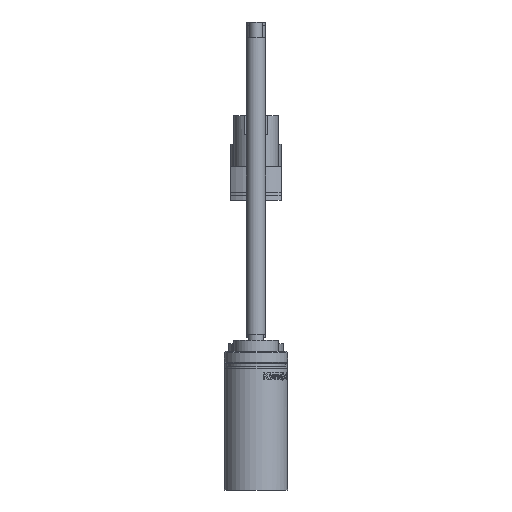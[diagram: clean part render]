
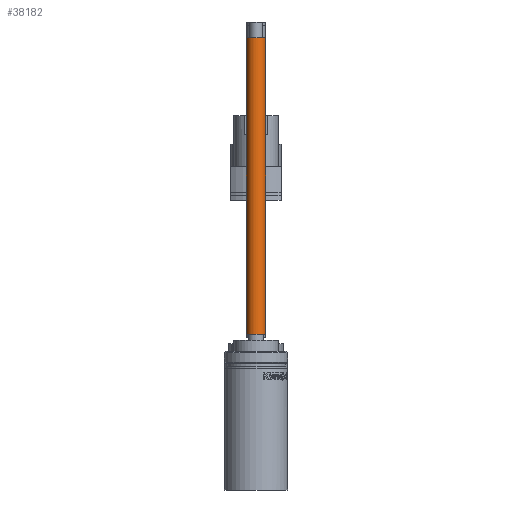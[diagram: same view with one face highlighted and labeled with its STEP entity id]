
A CAD part, left-side view. The second image highlights one B-rep face of the part: STEP entity #38182.
In plain terms, the highlighted cylindrical face has radius 1.5 mm (diameter 3 mm), a full revolution.
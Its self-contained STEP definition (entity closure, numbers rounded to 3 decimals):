
#38182=ADVANCED_FACE('',(#40993,#40994),#38927,.T.);
#38927=CYLINDRICAL_SURFACE('',#85278,1.5);
#40993=FACE_BOUND('',#46028,.T.);
#40994=FACE_BOUND('',#46029,.T.);
#46028=EDGE_LOOP('',(#63534));
#46029=EDGE_LOOP('',(#63535));
#63534=ORIENTED_EDGE('',*,*,#78441,.F.);
#63535=ORIENTED_EDGE('',*,*,#78440,.F.);
#69687=VERTEX_POINT('',#161295);
#69688=VERTEX_POINT('',#161298);
#78440=EDGE_CURVE('',#69687,#69687,#80393,.T.);
#78441=EDGE_CURVE('',#69688,#69688,#80394,.T.);
#80393=CIRCLE('',#85275,1.5);
#80394=CIRCLE('',#85277,1.5);
#85275=AXIS2_PLACEMENT_3D('',#161294,#97069,#97070);
#85277=AXIS2_PLACEMENT_3D('',#161297,#97073,#97074);
#85278=AXIS2_PLACEMENT_3D('',#161299,#97075,#97076);
#97069=DIRECTION('',(0.,0.,1.));
#97070=DIRECTION('',(-1.,0.,0.));
#97073=DIRECTION('',(0.,0.,-1.));
#97074=DIRECTION('',(-1.,0.,0.));
#97075=DIRECTION('',(0.,0.,-1.));
#97076=DIRECTION('',(-1.,0.,0.));
#161294=CARTESIAN_POINT('',(-210.,0.,71.05));
#161295=CARTESIAN_POINT('',(-211.5,0.,71.05));
#161297=CARTESIAN_POINT('',(-210.,0.,24.5));
#161298=CARTESIAN_POINT('',(-211.5,0.,24.5));
#161299=CARTESIAN_POINT('',(-210.,0.,21.8));
